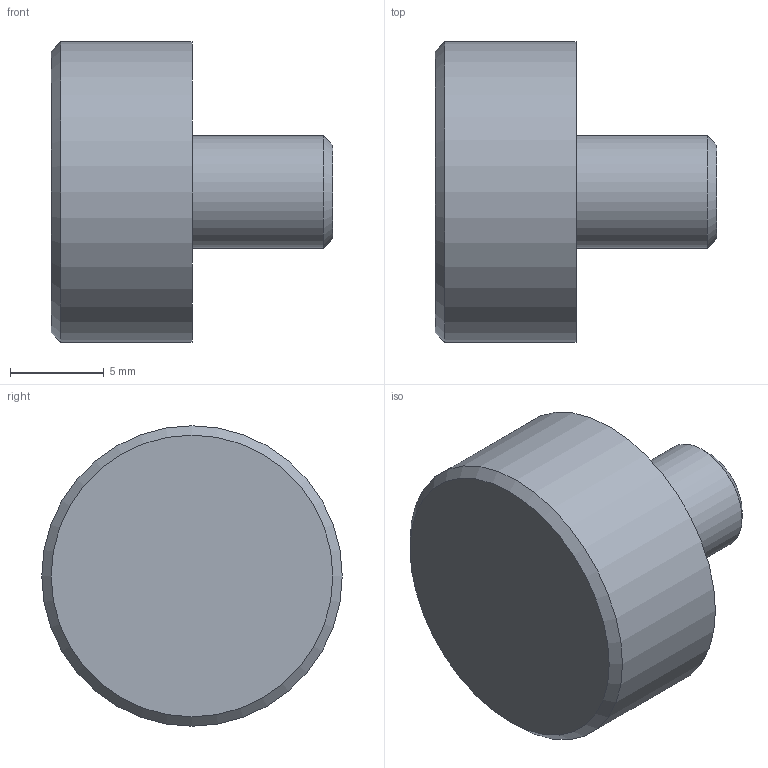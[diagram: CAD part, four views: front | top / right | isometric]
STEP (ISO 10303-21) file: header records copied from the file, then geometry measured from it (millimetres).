
FILE_DESCRIPTION (( 'STEP AP203' ), '1' );
FILE_NAME ('TAEM16M6.STEP', '2017-02-21T07:30:51', ( '¦K¬P' ), ( '' ), 'SwSTEP 2.0', 'SolidWorks 2012', '' );
FILE_SCHEMA (( 'CONFIG_CONTROL_DESIGN' ));
Length unit declared in the file: millimetre
Products named in the file (1): TAEM16M6
Bounding box: 15 x 16 x 16 mm (x, y, z)
Volume: 1711.6 mm3; surface area: 899.6 mm2
Topology: 1 solids, 1 shells, 7 faces, 10 edges, 6 vertices
Faces by surface type: plane 3, cylinder 2, cone 2
Full cylindrical faces by diameter (mm): 6 x1, 16 x1
Entity records: 211 total; most frequent: DIRECTION 28, CARTESIAN_POINT 20, AXIS2_PLACEMENT_3D 14, ORIENTED_EDGE 12, EDGE_LOOP 12, FACE_OUTER_BOUND 9, PERSON_AND_ORGANIZATION 8, ADVANCED_FACE 7
